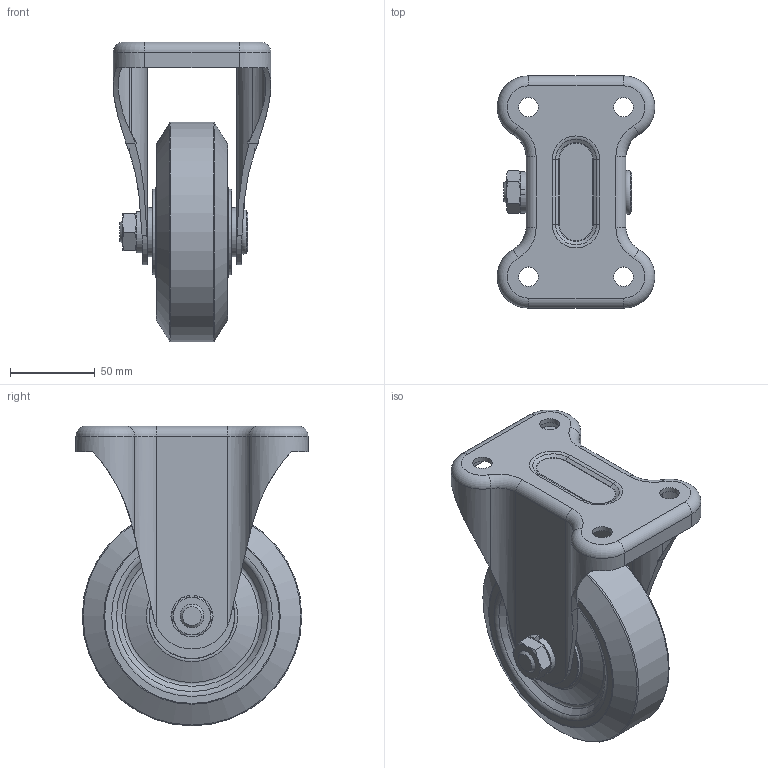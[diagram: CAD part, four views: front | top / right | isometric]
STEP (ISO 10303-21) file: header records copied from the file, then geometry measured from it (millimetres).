
FILE_DESCRIPTION((''),'2;1');
FILE_NAME('\\Cad-srv01-2\図面\900 図面交換受渡し場所\■■カタログ作成中（消さないでください)■■\1203　APPIT　3D\03購買先データ\シシク\解凍データ\UWK-130\UWK-130.stp','2013-07-19T17:23:22',('Administrator'),(''),'Autodesk Inventor 11','Autodesk Inventor 11','');
FILE_SCHEMA(('AUTOMOTIVE_DESIGN { 1 0 10303 214 1 1 1 1 }'));
Length unit declared in the file: millimetre
Products named in the file (5): UWK-130; 1; 2; 3; 4
Assembly tree (4 placements, depth 2):
  UWK-130
    1
    2
    3
    4
Bounding box: 92.98 x 137 x 176.75 mm (x, y, z)
Volume: 373449.7 mm3; surface area: 182703.3 mm2
Topology: 4 solids, 4 shells, 237 faces, 533 edges, 318 vertices
Faces by surface type: cylinder 74, plane 66, torus 61, cone 36
Full cylindrical faces by diameter (mm): 11.5 x4, 14 x2, 14.3 x1, 20 x3, 23.5 x2, 29 x2, 47 x4, 50.5 x2, 50.95 x2, 98.8 x1, 102.8 x4, 103 x1, 107 x2, 129.5 x1
Entity records: 6609 total; most frequent: CARTESIAN_POINT 1435, DIRECTION 1154, ORIENTED_EDGE 884, AXIS2_PLACEMENT_3D 511, EDGE_CURVE 445, EDGE_LOOP 353, VERTEX_POINT 309, CIRCLE 243
